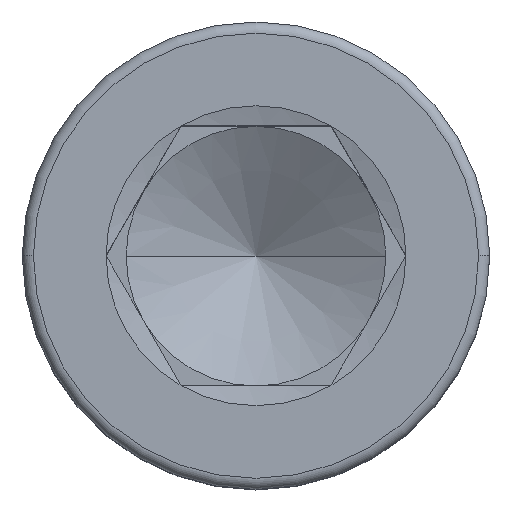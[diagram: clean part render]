
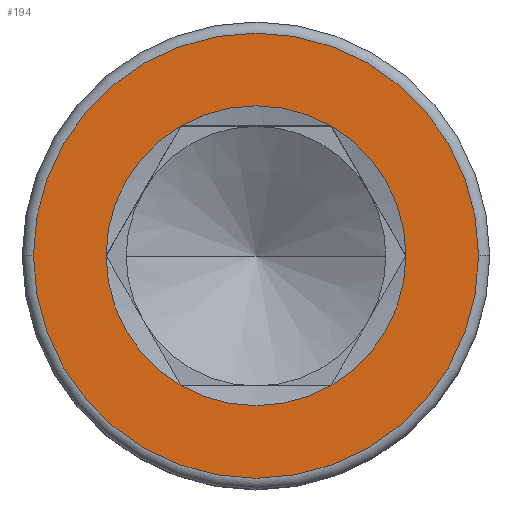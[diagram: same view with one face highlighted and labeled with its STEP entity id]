
A CAD part, top view. The second image highlights one B-rep face of the part: STEP entity #194.
In plain terms, the highlighted planar face has unit normal (0, 0, 1).
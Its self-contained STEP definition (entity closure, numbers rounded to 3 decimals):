
#41 = CARTESIAN_POINT ( 'NONE',  ( -5.774, 0., 12. ) ) ;
#68 = ORIENTED_EDGE ( 'NONE', *, *, #508, .F. ) ;
#72 = PLANE ( 'NONE',  #111 ) ;
#78 = EDGE_CURVE ( 'NONE', #1352, #907, #1617, .T. ) ;
#84 = CARTESIAN_POINT ( 'NONE',  ( 2.887, 5., 12. ) ) ;
#88 = DIRECTION ( 'NONE',  ( 1., 0., 0. ) ) ;
#103 = ORIENTED_EDGE ( 'NONE', *, *, #1204, .F. ) ;
#105 = CIRCLE ( 'NONE', #682, 5.774 ) ;
#111 = AXIS2_PLACEMENT_3D ( 'NONE', #1528, #1778, #454 ) ;
#118 = CARTESIAN_POINT ( 'NONE',  ( 0., 0., 12. ) ) ;
#119 = AXIS2_PLACEMENT_3D ( 'NONE', #1652, #957, #120 ) ;
#120 = DIRECTION ( 'NONE',  ( 1., 0., 0. ) ) ;
#150 = ORIENTED_EDGE ( 'NONE', *, *, #1695, .T. ) ;
#194 = ADVANCED_FACE ( 'NONE', ( #224, #636 ), #72, .T. ) ;
#224 = FACE_OUTER_BOUND ( 'NONE', #549, .T. ) ;
#230 = AXIS2_PLACEMENT_3D ( 'NONE', #1028, #1724, #1327 ) ;
#268 = EDGE_CURVE ( 'NONE', #279, #1001, #1241, .T. ) ;
#279 = VERTEX_POINT ( 'NONE', #1291 ) ;
#302 = VERTEX_POINT ( 'NONE', #84 ) ;
#363 = DIRECTION ( 'NONE',  ( 0., 0., 1. ) ) ;
#395 = EDGE_CURVE ( 'NONE', #951, #302, #1182, .T. ) ;
#446 = DIRECTION ( 'NONE',  ( 1., 0., 0. ) ) ;
#454 = DIRECTION ( 'NONE',  ( 1., 0., 0. ) ) ;
#467 = CIRCLE ( 'NONE', #839, 5.774 ) ;
#508 = EDGE_CURVE ( 'NONE', #907, #279, #105, .T. ) ;
#539 = EDGE_LOOP ( 'NONE', ( #1651, #965, #560, #68, #1356, #103 ) ) ;
#549 = EDGE_LOOP ( 'NONE', ( #150, #1365 ) ) ;
#560 = ORIENTED_EDGE ( 'NONE', *, *, #268, .F. ) ;
#582 = CARTESIAN_POINT ( 'NONE',  ( -8.57, 0., 12. ) ) ;
#614 = CARTESIAN_POINT ( 'NONE',  ( 0., 0., 12. ) ) ;
#636 = FACE_BOUND ( 'NONE', #539, .T. ) ;
#657 = CIRCLE ( 'NONE', #1369, 5.774 ) ;
#682 = AXIS2_PLACEMENT_3D ( 'NONE', #1733, #363, #912 ) ;
#814 = CIRCLE ( 'NONE', #1112, 8.57 ) ;
#834 = CARTESIAN_POINT ( 'NONE',  ( 0., 0., 12. ) ) ;
#839 = AXIS2_PLACEMENT_3D ( 'NONE', #834, #1335, #88 ) ;
#857 = DIRECTION ( 'NONE',  ( 0., 0., 1. ) ) ;
#883 = CARTESIAN_POINT ( 'NONE',  ( 0., 0., 12. ) ) ;
#907 = VERTEX_POINT ( 'NONE', #41 ) ;
#908 = CARTESIAN_POINT ( 'NONE',  ( -2.887, 5., 12. ) ) ;
#911 = DIRECTION ( 'NONE',  ( 0., 0., 1. ) ) ;
#912 = DIRECTION ( 'NONE',  ( 1., 0., 0. ) ) ;
#951 = VERTEX_POINT ( 'NONE', #1650 ) ;
#957 = DIRECTION ( 'NONE',  ( 0., 0., 1. ) ) ;
#965 = ORIENTED_EDGE ( 'NONE', *, *, #1597, .F. ) ;
#986 = CARTESIAN_POINT ( 'NONE',  ( 8.57, 0., 12. ) ) ;
#993 = CARTESIAN_POINT ( 'NONE',  ( 0., 0., 12. ) ) ;
#1001 = VERTEX_POINT ( 'NONE', #1405 ) ;
#1028 = CARTESIAN_POINT ( 'NONE',  ( 0., 0., 12. ) ) ;
#1088 = VERTEX_POINT ( 'NONE', #582 ) ;
#1112 = AXIS2_PLACEMENT_3D ( 'NONE', #993, #857, #1704 ) ;
#1182 = CIRCLE ( 'NONE', #1467, 5.774 ) ;
#1204 = EDGE_CURVE ( 'NONE', #302, #1352, #657, .T. ) ;
#1205 = DIRECTION ( 'NONE',  ( 1., 0., 0. ) ) ;
#1213 = DIRECTION ( 'NONE',  ( 1., 0., 0. ) ) ;
#1241 = CIRCLE ( 'NONE', #1557, 5.774 ) ;
#1291 = CARTESIAN_POINT ( 'NONE',  ( -2.887, -5., 12. ) ) ;
#1327 = DIRECTION ( 'NONE',  ( 1., 0., 0. ) ) ;
#1335 = DIRECTION ( 'NONE',  ( 0., 0., 1. ) ) ;
#1346 = CIRCLE ( 'NONE', #119, 8.57 ) ;
#1352 = VERTEX_POINT ( 'NONE', #908 ) ;
#1356 = ORIENTED_EDGE ( 'NONE', *, *, #78, .F. ) ;
#1365 = ORIENTED_EDGE ( 'NONE', *, *, #1550, .T. ) ;
#1369 = AXIS2_PLACEMENT_3D ( 'NONE', #883, #1444, #1213 ) ;
#1405 = CARTESIAN_POINT ( 'NONE',  ( 2.887, -5., 12. ) ) ;
#1444 = DIRECTION ( 'NONE',  ( 0., 0., 1. ) ) ;
#1467 = AXIS2_PLACEMENT_3D ( 'NONE', #118, #911, #1205 ) ;
#1528 = CARTESIAN_POINT ( 'NONE',  ( 0., 0., 12. ) ) ;
#1543 = VERTEX_POINT ( 'NONE', #986 ) ;
#1550 = EDGE_CURVE ( 'NONE', #1088, #1543, #1346, .T. ) ;
#1557 = AXIS2_PLACEMENT_3D ( 'NONE', #614, #1686, #446 ) ;
#1597 = EDGE_CURVE ( 'NONE', #1001, #951, #467, .T. ) ;
#1617 = CIRCLE ( 'NONE', #230, 5.774 ) ;
#1650 = CARTESIAN_POINT ( 'NONE',  ( 5.774, 0., 12. ) ) ;
#1651 = ORIENTED_EDGE ( 'NONE', *, *, #395, .F. ) ;
#1652 = CARTESIAN_POINT ( 'NONE',  ( 0., 0., 12. ) ) ;
#1686 = DIRECTION ( 'NONE',  ( 0., 0., 1. ) ) ;
#1695 = EDGE_CURVE ( 'NONE', #1543, #1088, #814, .T. ) ;
#1704 = DIRECTION ( 'NONE',  ( 1., 0., 0. ) ) ;
#1724 = DIRECTION ( 'NONE',  ( 0., 0., 1. ) ) ;
#1733 = CARTESIAN_POINT ( 'NONE',  ( 0., 0., 12. ) ) ;
#1778 = DIRECTION ( 'NONE',  ( 0., 0., 1. ) ) ;
